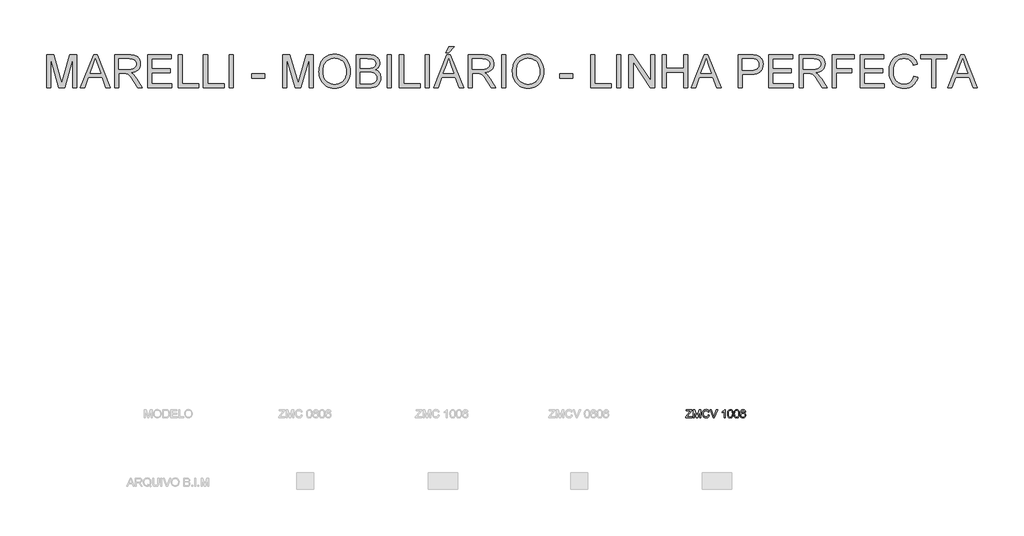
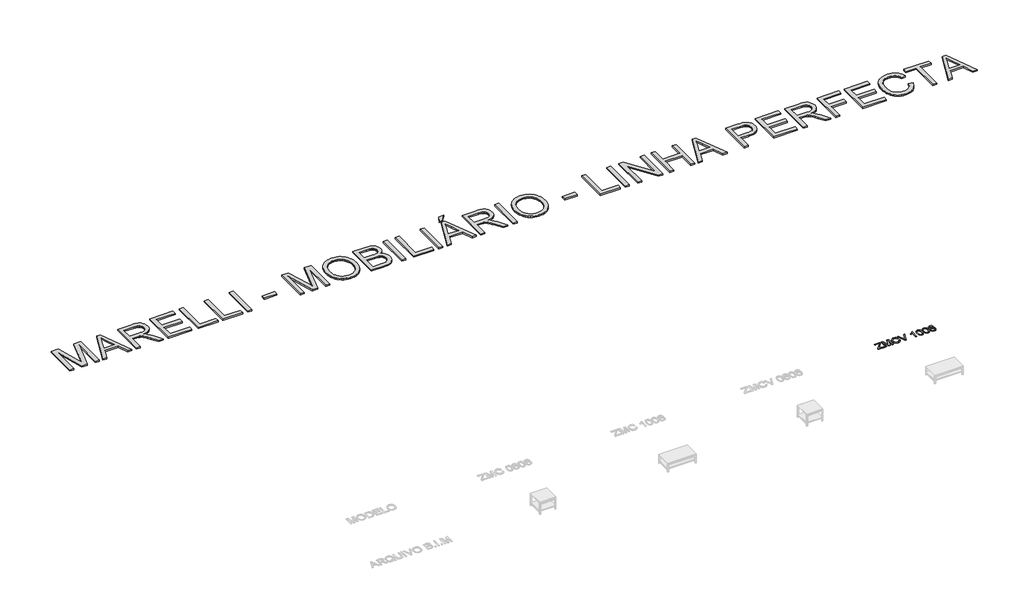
# One storey, part 5 of 5: 2 proxies.
"""IFC4 building model written with IfcOpenShell, lengths in millimetres."""

from ifc_helpers import new_model, si_unit, origin, origin_with_axes, place, context, project, spatial, polyline, outline, extrude, element, save

model = new_model("IFC4")

# Units and contexts
model_context = context("Model", 3, world=origin())
ifc_project = project(units=[si_unit("LENGTHUNIT", "METRE", prefix="MILLI")], contexts=[model_context])

# Site, building, storey
site = spatial("IfcSite", under=ifc_project)
building = spatial("IfcBuilding", under=site)
storey = spatial("IfcBuildingStorey", under=building, Name="Marelli - Linha PERFECTA - Planta Baixa", Elevation=0.0)

# Proxies
placement = place(None, origin())
element("IfcBuildingElementProxy", 1, Name="1200mm Arial", ObjectType="1200mm Arial", at=placement, inside=storey, context=model_context, shape_type="SweptSolid", body=[
    extrude(outline(polyline([(-13540.6713441, 28269.4336799), (-13540.6713441, 29474.9094017), (-13281.3881139, 29474.9094017), (-13034.7600243, 28625.2491457), (-12985.0223786, 28447.7828712), (-12931.1644545, 28639.9644255), (-12688.6566432, 29474.9094017), (-12429.373413, 29474.9094017), (-12429.373413, 28269.4336799), (-12580.0578783, 28269.4336799), (-12580.0578783, 29324.2249365), (-12882.8983367, 28269.4336799), (-13087.1464204, 28269.4336799), (-13389.9868788, 29324.2249365), (-13389.9868788, 28269.4336799), (-13540.6713441, 28269.4336799)])), origin_with_axes(), (0.0, 0.0, 1.0), 50.0),
    extrude(outline(polyline([(-12306.0593683, 28269.4336799), (-11824.8697186, 29474.9094017), (-11696.5524787, 29474.9094017), (-11215.362829, 28269.4336799), (-11374.5821565, 28269.4336799), (-11512.6114811, 28646.144843), (-12009.1050218, 28646.144843), (-12146.8400407, 28269.4336799), (-12306.0593683, 28269.4336799)]), holes=[polyline([(-11953.7755697, 28796.8293082), (-11567.6466275, 28796.8293082), (-11676.2453925, 29093.1950435), (-11760.7110986, 29324.2249365), (-11835.7590256, 29119.093936), (-11953.7755697, 28796.8293082)])]), origin_with_axes(), (0.0, 0.0, 1.0), 50.0),
    extrude(outline(polyline([(-11054.3776679, 28269.4336799), (-11054.3776679, 29474.9094017), (-10534.9282907, 29474.9094017), (-10460.3678073, 29472.8768537), (-10395.3170735, 29466.7792096), (-10339.7760893, 29456.6164695), (-10293.7448546, 29442.3886334), (-10254.5470281, 29423.0012522), (-10219.506268, 29397.3598771), (-10188.6225745, 29365.4645082), (-10161.8959476, 29327.3151453), (-10140.3288656, 29284.9627306), (-10124.9238071, 29240.4582062), (-10115.6807719, 29193.8015722), (-10112.5997602, 29144.9928285), (-10117.7041229, 29083.0782887), (-10133.017211, 29026.2405204), (-10158.5390244, 28974.4795237), (-10194.2695631, 28927.7952985), (-10216.0780677, 28906.7294558), (-10240.6686798, 28887.6777669), (-10298.1962268, 28855.616851), (-10366.8522041, 28831.6125509), (-10446.6366118, 28815.6648664), (-10396.9725425, 28783.2176744), (-10360.9936834, 28751.2119408), (-10299.2630846, 28678.0034238), (-10238.856861, 28596.1128916), (-10037.8461388, 28269.4336799), (-10212.9579685, 28269.4336799), (-10369.8228512, 28519.2991311), (-10432.5835196, 28614.6541442), (-10483.1305058, 28684.6988761), (-10525.2529942, 28732.9282057), (-10562.7401695, 28762.8370119), (-10598.2407821, 28780.384983), (-10634.4035822, 28791.5318075), (-10669.6466773, 28795.504933), (-10721.8123442, 28796.8293082), (-10903.6932026, 28796.8293082), (-10903.6932026, 28269.4336799), (-11054.3776679, 28269.4336799)]), holes=[polyline([(-10903.6932026, 28947.5137734), (-10566.4189895, 28947.5137734), (-10469.5556601, 28952.8480624), (-10429.2633846, 28959.5159235), (-10394.3973685, 28968.8509292), (-10364.1758626, 28981.1197937), (-10337.8171177, 28996.5892316), (-10315.3211337, 29015.2592429), (-10296.6879106, 29037.1298275), (-10282.0737983, 29061.1249306), (-10271.6351467, 29086.1684974), (-10265.3719558, 29112.2605279), (-10263.2842254, 29139.4010221), (-10267.266548, 29177.9366611), (-10279.2135158, 29212.9038448), (-10299.1251288, 29244.3025731), (-10327.001387, 29272.132846), (-10363.4860839, 29294.9231356), (-10409.2230129, 29311.2019139), (-10464.2121742, 29320.9691808), (-10528.4535676, 29324.2249365), (-10903.6932026, 29324.2249365), (-10903.6932026, 28947.5137734)])]), origin_with_axes(), (0.0, 0.0, 1.0), 50.0),
    extrude(outline(polyline([(-9848.9019461, 28269.4336799), (-9848.9019461, 29474.9094017), (-8982.466271, 29474.9094017), (-8982.466271, 29324.2249365), (-9698.2174809, 29324.2249365), (-9698.2174809, 28966.3493316), (-9020.1373873, 28966.3493316), (-9020.1373873, 28815.6648664), (-9698.2174809, 28815.6648664), (-9698.2174809, 28420.1181452), (-8963.6307129, 28420.1181452), (-8963.6307129, 28269.4336799), (-9848.9019461, 28269.4336799)])), origin_with_axes(), (0.0, 0.0, 1.0), 50.0),
    extrude(outline(polyline([(-8737.604015, 28269.4336799), (-8737.604015, 29474.9094017), (-8586.9195498, 29474.9094017), (-8586.9195498, 28420.1181452), (-7984.1816889, 28420.1181452), (-7984.1816889, 28269.4336799), (-8737.604015, 28269.4336799)])), origin_with_axes(), (0.0, 0.0, 1.0), 50.0),
    extrude(outline(polyline([(-7814.6616655, 28269.4336799), (-7814.6616655, 29474.9094017), (-7663.9772003, 29474.9094017), (-7663.9772003, 28420.1181452), (-7061.2393394, 28420.1181452), (-7061.2393394, 28269.4336799), (-7814.6616655, 28269.4336799)])), origin_with_axes(), (0.0, 0.0, 1.0), 50.0),
    extrude(outline(polyline([(-6872.8837579, 28269.4336799), (-6872.8837579, 29474.9094017), (-6722.1992927, 29474.9094017), (-6722.1992927, 28269.4336799), (-6872.8837579, 28269.4336799)])), origin_with_axes(), (0.0, 0.0, 1.0), 50.0),
    extrude(outline(polyline([(-6044.1191992, 28627.3092848), (-6044.1191992, 28777.9937501), (-5573.2302453, 28777.9937501), (-5573.2302453, 28627.3092848), (-6044.1191992, 28627.3092848)])), origin_with_axes(), (0.0, 0.0, 1.0), 50.0),
    extrude(outline(polyline([(-4913.98571, 28269.4336799), (-4913.98571, 29474.9094017), (-4654.7024798, 29474.9094017), (-4408.0743902, 28625.2491457), (-4358.3367445, 28447.7828712), (-4304.4788204, 28639.9644255), (-4061.9710091, 29474.9094017), (-3802.6877789, 29474.9094017), (-3802.6877789, 28269.4336799), (-3953.3722442, 28269.4336799), (-3953.3722442, 29324.2249365), (-4256.2127026, 28269.4336799), (-4460.4607863, 28269.4336799), (-4763.3012448, 29324.2249365), (-4763.3012448, 28269.4336799), (-4913.98571, 28269.4336799)])), origin_with_axes(), (0.0, 0.0, 1.0), 50.0),
    extrude(outline(polyline([(-3595.4966393, 28856.2790386), (-3592.9858446, 28929.0047106), (-3585.4534608, 28997.6744835), (-3572.8994877, 29062.2883574), (-3555.3239254, 29122.8463323), (-3532.7267738, 29179.3484083), (-3505.108033, 29231.7945852), (-3472.467703, 29280.1848632), (-3434.8057838, 29324.5192421), (-3393.1753375, 29364.1815197), (-3348.6294264, 29398.5554936), (-3301.1680505, 29427.6411639), (-3250.7912098, 29451.4385304), (-3197.4989043, 29469.9475933), (-3141.2911339, 29483.1683525), (-3082.1678988, 29491.100808), (-3020.1291988, 29493.7449599), (-2939.029613, 29488.7785529), (-2862.0135173, 29473.8793321), (-2789.0809117, 29449.0472975), (-2720.2317963, 29414.2824489), (-2657.3975516, 29370.6332502), (-2602.5095579, 29319.148165), (-2555.5678153, 29259.8271932), (-2516.5723238, 29192.670335), (-2485.9277536, 29119.2043006), (-2464.0387749, 29040.9558002), (-2450.9053877, 28957.9248339), (-2446.5275919, 28870.1114017), (-2451.1353139, 28781.1391411), (-2464.9584799, 28696.9861347), (-2487.9970898, 28617.6523825), (-2520.2511438, 28543.1378843), (-2560.9572865, 28475.410809), (-2609.352163, 28416.4393252), (-2665.4357732, 28366.2234329), (-2729.208117, 28324.763132), (-2798.1584, 28292.31594), (-2869.7758274, 28269.1393743), (-2944.0603993, 28255.2334349), (-3021.0121156, 28250.5981218), (-3103.5280471, 28255.7208786), (-3181.5558183, 28271.0891489), (-3255.0954291, 28296.7029328), (-3324.1468796, 28332.5622303), (-3386.907548, 28377.2782868), (-3441.5748125, 28429.4623478), (-3488.1486731, 28489.1144134), (-3526.6291298, 28556.2344834), (-3556.7586652, 28628.1278223), (-3578.2797619, 28702.0996945), (-3591.1924199, 28778.1500999), (-3595.4966393, 28856.2790386)]), holes=[polyline([(-3444.812174, 28854.8075107), (-3442.9290781, 28803.4557827), (-3437.2797902, 28754.9091549), (-3427.8643104, 28709.1676273), (-3414.6826386, 28666.2311999), (-3397.734775, 28626.0998728), (-3377.0207194, 28588.7736458), (-3352.5404719, 28554.2525191), (-3324.2940324, 28522.5364926), (-3293.2057046, 28494.1176085), (-3260.1997918, 28469.4879089), (-3225.2762942, 28448.6473939), (-3188.4352116, 28431.5960634), (-3149.6765441, 28418.3339175), (-3109.0002918, 28408.8609561), (-3066.4064545, 28403.1771793), (-3021.8950324, 28401.282587), (-2976.5696713, 28403.1955734), (-2933.2998509, 28408.9345325), (-2892.0855711, 28418.4994644), (-2852.926832, 28431.890369), (-2815.8236335, 28449.1072464), (-2780.7759757, 28470.1500965), (-2747.7838585, 28495.0189194), (-2716.847282, 28523.713715), (-2688.8077762, 28555.9263822), (-2664.5068711, 28591.3488198), (-2643.9445668, 28629.9810278), (-2627.1208634, 28671.8230063), (-2614.0357606, 28716.8747551), (-2604.6892587, 28765.1362743), (-2599.0813575, 28816.607564), (-2597.2120572, 28871.288624), (-2600.4126305, 28940.248104), (-2610.0143506, 29004.6826355), (-2626.0172174, 29064.5922184), (-2648.4212309, 29119.9768528), (-2676.9780708, 29170.1099717), (-2711.4394167, 29214.2650081), (-2751.8052686, 29252.4419622), (-2798.0756265, 29284.6408338), (-2848.8157507, 29310.1994354), (-2902.5909013, 29328.4555794), (-2959.4010785, 29339.4092659), (-3019.246282, 29343.0604947), (-3062.0447536, 29341.3015589), (-3103.325712, 29336.0247515), (-3143.0891572, 29327.2300726), (-3181.3350891, 29314.917522), (-3218.0635078, 29299.0870999), (-3253.2744132, 29279.7388062), (-3286.9678055, 29256.872641), (-3319.1436845, 29230.4886041), (-3348.5972367, 29199.993486), (-3374.1236487, 29164.7940768), (-3395.7229203, 29124.8903767), (-3413.3950516, 29080.2823855), (-3427.1400427, 29030.9701033), (-3436.9578934, 28976.9535301), (-3442.8486039, 28918.2326659), (-3444.812174, 28854.8075107)])]), origin_with_axes(), (0.0, 0.0, 1.0), 50.0),
    extrude(outline(polyline([(-2239.3364522, 28269.4336799), (-2239.3364522, 29474.9094017), (-1779.3368055, 29474.9094017), (-1712.6122086, 29472.6929127), (-1652.8221873, 29466.0434456), (-1599.9667417, 29454.9610005), (-1554.0458716, 29439.4455774), (-1513.8915519, 29419.3316293), (-1478.335757, 29394.4536094), (-1447.3784871, 29364.8115176), (-1421.0197422, 29330.405354), (-1399.967695, 29293.1756961), (-1384.9305184, 29255.0631214), (-1375.9082125, 29216.0676299), (-1372.9007772, 29176.1892216), (-1375.4299659, 29139.3550369), (-1383.0175321, 29103.606104), (-1395.6634757, 29068.942423), (-1413.3677967, 29035.3639939), (-1436.1856774, 29003.9192804), (-1464.1723002, 28975.6567461), (-1497.327665, 28950.5763911), (-1535.6517719, 28928.6782153), (-1490.1723602, 28909.2908341), (-1450.2663608, 28884.0909175), (-1415.9337736, 28853.0784653), (-1387.1745986, 28816.2534776), (-1364.4486884, 28774.7379944), (-1348.2158953, 28729.6540559), (-1338.4762195, 28681.001662), (-1335.2296609, 28628.7808128), (-1337.4461499, 28585.9869397), (-1344.095617, 28544.7197769), (-1355.1780621, 28504.9793244), (-1370.6934852, 28466.7655821), (-1389.4830581, 28431.4673047), (-1410.3879525, 28400.4732466), (-1433.4081684, 28373.7834079), (-1458.5437057, 28351.3977885), (-1486.3831757, 28332.3966834), (-1517.5151895, 28315.8603877), (-1551.9397472, 28301.7889014), (-1589.6568488, 28290.1822245), (-1631.2551054, 28281.1047362), (-1677.3231282, 28274.6208161), (-1782.8684726, 28269.4336799), (-2239.3364522, 28269.4336799)]), holes=[polyline([(-2088.651987, 28985.1848897), (-1813.4762546, 28985.1848897), (-1717.2383247, 28988.4222513), (-1652.7853991, 28998.134336), (-1622.6834549, 29007.9108), (-1596.5362421, 29020.4647731), (-1574.3437607, 29035.7962552), (-1556.1060108, 29053.9052464), (-1541.8781746, 29074.662988), (-1531.7154345, 29097.9407213), (-1525.6177904, 29123.7384462), (-1523.5852424, 29152.0561628), (-1525.4798347, 29179.1690658), (-1531.1636115, 29204.5897117), (-1540.6365729, 29228.3181004), (-1553.8987188, 29250.3542319), (-1570.6925319, 29269.8795688), (-1590.7604947, 29286.0755736), (-1614.1026073, 29298.9422464), (-1640.7188697, 29308.4795871), (-1674.0121903, 29315.3681775), (-1717.3854775, 29320.2885992), (-1834.371952, 29324.2249365), (-2088.651987, 29324.2249365), (-2088.651987, 28985.1848897)]), polyline([(-2088.651987, 28420.1181452), (-1779.6311111, 28420.1181452), (-1711.940824, 28421.5896731), (-1667.7949845, 28426.0042571), (-1615.886835, 28439.0640679), (-1573.1757354, 28458.819331), (-1538.447675, 28487.1094565), (-1510.4886434, 28525.7738542), (-1499.7372921, 28548.5641438), (-1492.0577554, 28573.0834788), (-1487.4500334, 28599.3318591), (-1485.9141261, 28627.3092848), (-1487.7167479, 28659.9036296), (-1493.1246132, 28690.2906824), (-1502.1377221, 28718.4704432), (-1514.7560745, 28744.4429121), (-1531.4119319, 28767.463128), (-1552.5375554, 28786.7861297), (-1578.1329453, 28802.4119175), (-1608.1981013, 28814.3404912), (-1644.0573988, 28823.160462), (-1687.0352129, 28829.4604412), (-1794.3463909, 28834.5004245), (-2088.651987, 28834.5004245), (-2088.651987, 28420.1181452)])]), origin_with_axes(), (0.0, 0.0, 1.0), 50.0),
    extrude(outline(polyline([(-1109.2029631, 28269.4336799), (-1109.2029631, 29474.9094017), (-958.5184978, 29474.9094017), (-958.5184978, 28269.4336799), (-1109.2029631, 28269.4336799)])), origin_with_axes(), (0.0, 0.0, 1.0), 50.0),
    extrude(outline(polyline([(-657.1495674, 28269.4336799), (-657.1495674, 29474.9094017), (-506.4651022, 29474.9094017), (-506.4651022, 28420.1181452), (96.2727587, 28420.1181452), (96.2727587, 28269.4336799), (-657.1495674, 28269.4336799)])), origin_with_axes(), (0.0, 0.0, 1.0), 50.0),
    extrude(outline(polyline([(284.6283403, 28269.4336799), (284.6283403, 29474.9094017), (435.3128055, 29474.9094017), (435.3128055, 28269.4336799), (284.6283403, 28269.4336799)])), origin_with_axes(), (0.0, 0.0, 1.0), 50.0),
    extrude(outline(polyline([(596.2979666, 28269.4336799), (1077.4876163, 29474.9094017), (1205.8048562, 29474.9094017), (1686.9945059, 28269.4336799), (1527.7751784, 28269.4336799), (1389.7458538, 28646.144843), (893.2523131, 28646.144843), (755.5172941, 28269.4336799), (596.2979666, 28269.4336799)]), holes=[polyline([(948.5817652, 28796.8293082), (1334.7107073, 28796.8293082), (1226.1119423, 29093.1950435), (1141.6462362, 29324.2249365), (1066.5983092, 29119.093936), (948.5817652, 28796.8293082)])]), origin_with_axes(), (0.0, 0.0, 1.0), 50.0),
    extrude(outline(polyline([(1038.0506664, 29550.2516343), (1151.0640153, 29776.2783322), (1339.4195968, 29776.2783322), (1151.0640153, 29550.2516343), (1038.0506664, 29550.2516343)])), origin_with_axes(), (0.0, 0.0, 1.0), 50.0),
    extrude(outline(polyline([(1847.979667, 28269.4336799), (1847.979667, 29474.9094017), (2367.4290442, 29474.9094017), (2441.9895275, 29472.8768537), (2507.0402613, 29466.7792096), (2562.5812456, 29456.6164695), (2608.6124802, 29442.3886334), (2647.8103068, 29423.0012522), (2682.8510668, 29397.3598771), (2713.7347603, 29365.4645082), (2740.4613873, 29327.3151453), (2762.0284692, 29284.9627306), (2777.4335278, 29240.4582062), (2786.6765629, 29193.8015722), (2789.7575746, 29144.9928285), (2784.6532119, 29083.0782887), (2769.3401239, 29026.2405204), (2743.8183105, 28974.4795237), (2708.0877717, 28927.7952985), (2686.2792672, 28906.7294558), (2661.6886551, 28887.6777669), (2604.1611081, 28855.616851), (2535.5051307, 28831.6125509), (2455.720723, 28815.6648664), (2505.3847924, 28783.2176744), (2541.3636515, 28751.2119408), (2603.0942503, 28678.0034238), (2663.5004739, 28596.1128916), (2864.511196, 28269.4336799), (2689.3993663, 28269.4336799), (2532.5344836, 28519.2991311), (2469.7738152, 28614.6541442), (2419.2268291, 28684.6988761), (2377.1043406, 28732.9282057), (2339.6171653, 28762.8370119), (2304.1165528, 28780.384983), (2267.9537527, 28791.5318075), (2232.7106575, 28795.504933), (2180.5449906, 28796.8293082), (1998.6641322, 28796.8293082), (1998.6641322, 28269.4336799), (1847.979667, 28269.4336799)]), holes=[polyline([(1998.6641322, 28947.5137734), (2335.9383454, 28947.5137734), (2432.8016747, 28952.8480624), (2473.0939502, 28959.5159235), (2507.9599663, 28968.8509292), (2538.1814722, 28981.1197937), (2564.5402172, 28996.5892316), (2587.0362012, 29015.2592429), (2605.6694242, 29037.1298275), (2620.2835365, 29061.1249306), (2630.7221881, 29086.1684974), (2636.9853791, 29112.2605279), (2639.0731094, 29139.4010221), (2635.0907868, 29177.9366611), (2623.143819, 29212.9038448), (2603.232206, 29244.3025731), (2575.3559478, 29272.132846), (2538.871251, 29294.9231356), (2493.1343219, 29311.2019139), (2438.1451607, 29320.9691808), (2373.9037673, 29324.2249365), (1998.6641322, 29324.2249365), (1998.6641322, 28947.5137734)])]), origin_with_axes(), (0.0, 0.0, 1.0), 50.0),
    extrude(outline(polyline([(3072.2909469, 28269.4336799), (3072.2909469, 29474.9094017), (3222.9754121, 29474.9094017), (3222.9754121, 28269.4336799), (3072.2909469, 28269.4336799)])), origin_with_axes(), (0.0, 0.0, 1.0), 50.0),
    extrude(outline(polyline([(3467.8376681, 28856.2790386), (3470.3484627, 28929.0047106), (3477.8808466, 28997.6744835), (3490.4348197, 29062.2883574), (3508.010382, 29122.8463323), (3530.6075336, 29179.3484083), (3558.2262743, 29231.7945852), (3590.8666044, 29280.1848632), (3628.5285236, 29324.5192421), (3670.1589699, 29364.1815197), (3714.704881, 29398.5554936), (3762.1662569, 29427.6411639), (3812.5430976, 29451.4385304), (3865.8354031, 29469.9475933), (3922.0431735, 29483.1683525), (3981.1664086, 29491.100808), (4043.2051086, 29493.7449599), (4124.3046944, 29488.7785529), (4201.3207901, 29473.8793321), (4274.2533957, 29449.0472975), (4343.1025111, 29414.2824489), (4405.9367558, 29370.6332502), (4460.8247495, 29319.148165), (4507.7664921, 29259.8271932), (4546.7619836, 29192.670335), (4577.4065538, 29119.2043006), (4599.2955325, 29040.9558002), (4612.4289197, 28957.9248339), (4616.8067155, 28870.1114017), (4612.1989935, 28781.1391411), (4598.3758275, 28696.9861347), (4575.3372176, 28617.6523825), (4543.0831636, 28543.1378843), (4502.3770209, 28475.410809), (4453.9821444, 28416.4393252), (4397.8985342, 28366.2234329), (4334.1261904, 28324.763132), (4265.1759074, 28292.31594), (4193.55848, 28269.1393743), (4119.2739081, 28255.2334349), (4042.3221918, 28250.5981218), (3959.8062603, 28255.7208786), (3881.7784891, 28271.0891489), (3808.2388783, 28296.7029328), (3739.1874278, 28332.5622303), (3676.4267594, 28377.2782868), (3621.7594949, 28429.4623478), (3575.1856343, 28489.1144134), (3536.7051776, 28556.2344834), (3506.5756422, 28628.1278223), (3485.0545455, 28702.0996945), (3472.1418875, 28778.1500999), (3467.8376681, 28856.2790386)]), holes=[polyline([(3618.5221334, 28854.8075107), (3620.4052293, 28803.4557827), (3626.0545172, 28754.9091549), (3635.469997, 28709.1676273), (3648.6516688, 28666.2311999), (3665.5995324, 28626.0998728), (3686.313588, 28588.7736458), (3710.7938355, 28554.2525191), (3739.040275, 28522.5364926), (3770.1286028, 28494.1176085), (3803.1345156, 28469.4879089), (3838.0580132, 28448.6473939), (3874.8990958, 28431.5960634), (3913.6577632, 28418.3339175), (3954.3340156, 28408.8609561), (3996.9278529, 28403.1771793), (4041.439275, 28401.282587), (4086.7646361, 28403.1955734), (4130.0344565, 28408.9345325), (4171.2487363, 28418.4994644), (4210.4074754, 28431.890369), (4247.5106739, 28449.1072464), (4282.5583317, 28470.1500965), (4315.5504489, 28495.0189194), (4346.4870254, 28523.713715), (4374.5265312, 28555.9263822), (4398.8274363, 28591.3488198), (4419.3897405, 28629.9810278), (4436.213444, 28671.8230063), (4449.2985468, 28716.8747551), (4458.6450487, 28765.1362743), (4464.2529499, 28816.607564), (4466.1222502, 28871.288624), (4462.9216769, 28940.248104), (4453.3199568, 29004.6826355), (4437.31709, 29064.5922184), (4414.9130765, 29119.9768528), (4386.3562366, 29170.1099717), (4351.8948907, 29214.2650081), (4311.5290388, 29252.4419622), (4265.2586809, 29284.6408338), (4214.5185567, 29310.1994354), (4160.743406, 29328.4555794), (4103.9332289, 29339.4092659), (4044.0880254, 29343.0604947), (4001.2895538, 29341.3015589), (3960.0085954, 29336.0247515), (3920.2451502, 29327.2300726), (3881.9992183, 29314.917522), (3845.2707996, 29299.0870999), (3810.0598941, 29279.7388062), (3776.3665019, 29256.872641), (3744.1906229, 29230.4886041), (3714.7370707, 29199.993486), (3689.2106587, 29164.7940768), (3667.6113871, 29124.8903767), (3649.9392557, 29080.2823855), (3636.1942647, 29030.9701033), (3626.376414, 28976.9535301), (3620.4857035, 28918.2326659), (3618.5221334, 28854.8075107)])]), origin_with_axes(), (0.0, 0.0, 1.0), 50.0),
    extrude(outline(polyline([(5200.7090182, 28627.3092848), (5200.7090182, 28777.9937501), (5671.597972, 28777.9937501), (5671.597972, 28627.3092848), (5200.7090182, 28627.3092848)])), origin_with_axes(), (0.0, 0.0, 1.0), 50.0),
    extrude(outline(polyline([(6330.8425074, 28269.4336799), (6330.8425074, 29474.9094017), (6481.5269726, 29474.9094017), (6481.5269726, 28420.1181452), (7084.2648335, 28420.1181452), (7084.2648335, 28269.4336799), (6330.8425074, 28269.4336799)])), origin_with_axes(), (0.0, 0.0, 1.0), 50.0),
    extrude(outline(polyline([(7272.620415, 28269.4336799), (7272.620415, 29474.9094017), (7423.3048803, 29474.9094017), (7423.3048803, 28269.4336799), (7272.620415, 28269.4336799)])), origin_with_axes(), (0.0, 0.0, 1.0), 50.0),
    extrude(outline(polyline([(7724.6738107, 28269.4336799), (7724.6738107, 29474.9094017), (7885.9532774, 29474.9094017), (8515.7672532, 28519.8877422), (8515.7672532, 29474.9094017), (8666.4517184, 29474.9094017), (8666.4517184, 28269.4336799), (8505.1722517, 28269.4336799), (7875.3582759, 29224.749645), (7875.3582759, 28269.4336799), (7724.6738107, 28269.4336799)])), origin_with_axes(), (0.0, 0.0, 1.0), 50.0),
    extrude(outline(polyline([(8930.1495325, 28269.4336799), (8930.1495325, 29474.9094017), (9080.8339977, 29474.9094017), (9080.8339977, 28985.1848897), (9721.2429749, 28985.1848897), (9721.2429749, 29474.9094017), (9871.9274402, 29474.9094017), (9871.9274402, 28269.4336799), (9721.2429749, 28269.4336799), (9721.2429749, 28834.5004245), (9080.8339977, 28834.5004245), (9080.8339977, 28269.4336799), (8930.1495325, 28269.4336799)])), origin_with_axes(), (0.0, 0.0, 1.0), 50.0),
    extrude(outline(polyline([(9995.241485, 28269.4336799), (10476.4311346, 29474.9094017), (10604.7483746, 29474.9094017), (11085.9380243, 28269.4336799), (10926.7186967, 28269.4336799), (10788.6893722, 28646.144843), (10292.1958315, 28646.144843), (10154.4608125, 28269.4336799), (9995.241485, 28269.4336799)]), holes=[polyline([(10347.5252835, 28796.8293082), (10733.6542257, 28796.8293082), (10625.0554607, 29093.1950435), (10540.5897546, 29324.2249365), (10465.5418276, 29119.093936), (10347.5252835, 28796.8293082)])]), origin_with_axes(), (0.0, 0.0, 1.0), 50.0),
    extrude(outline(polyline([(11717.8121392, 28269.4336799), (11717.8121392, 29474.9094017), (12164.5680341, 29474.9094017), (12268.6050623, 29472.0399222), (12344.683059, 29463.4314835), (12386.6124094, 29454.3907834), (12424.9916985, 29441.9839632), (12459.8209264, 29426.2110226), (12491.100093, 29407.0719618), (12519.1602922, 29384.1713076), (12544.3326177, 29357.1135869), (12566.6170696, 29325.8987996), (12586.0136478, 29290.5269457), (12601.722209, 29252.1660507), (12612.9426098, 29211.9841398), (12619.6748503, 29169.981213), (12621.9189305, 29126.1572703), (12615.8580746, 29052.157807), (12608.2820048, 29017.3791629), (12597.675507, 28984.0812438), (12584.0385813, 28952.2640497), (12567.3712277, 28921.9275807), (12547.6734461, 28893.0718367), (12524.9452366, 28865.6968177), (12498.2622956, 28840.7268273), (12466.7003197, 28819.0861689), (12430.2593088, 28800.7748426), (12388.939263, 28785.7928484), (12342.7401822, 28774.1401862), (12291.6620664, 28765.816856), (12235.7049157, 28760.8228579), (12174.86873, 28759.1581919), (11868.4966044, 28759.1581919), (11868.4966044, 28269.4336799), (11717.8121392, 28269.4336799)]), holes=[polyline([(11868.4966044, 28909.8426571), (12183.6978979, 28909.8426571), (12256.1706509, 28913.3007479), (12317.3126385, 28923.6750202), (12367.1238607, 28940.9654739), (12405.6043174, 28965.1721092), (12434.3175071, 28995.6511325), (12454.8269283, 29031.7587503), (12467.132581, 29073.4949627), (12471.2344653, 29120.8597696), (12468.8156412, 29156.0292883), (12461.5591688, 29188.5500567), (12449.4650482, 29218.4220747), (12432.5332794, 29245.6453423), (12411.6651732, 29269.3369428), (12387.7620406, 29288.6139594), (12360.8238815, 29303.476392), (12330.8506959, 29313.9242406), (12272.7253407, 29321.6497625), (12180.1662307, 29324.2249365), (11868.4966044, 29324.2249365), (11868.4966044, 28909.8426571)])]), origin_with_axes(), (0.0, 0.0, 1.0), 50.0),
    extrude(outline(polyline([(12829.1100702, 28269.4336799), (12829.1100702, 29474.9094017), (13695.5457452, 29474.9094017), (13695.5457452, 29324.2249365), (12979.7945354, 29324.2249365), (12979.7945354, 28966.3493316), (13657.8746289, 28966.3493316), (13657.8746289, 28815.6648664), (12979.7945354, 28815.6648664), (12979.7945354, 28420.1181452), (13714.3813034, 28420.1181452), (13714.3813034, 28269.4336799), (12829.1100702, 28269.4336799)])), origin_with_axes(), (0.0, 0.0, 1.0), 50.0),
    extrude(outline(polyline([(13940.4080012, 28269.4336799), (13940.4080012, 29474.9094017), (14459.8573784, 29474.9094017), (14534.4178618, 29472.8768537), (14599.4685956, 29466.7792096), (14655.0095798, 29456.6164695), (14701.0408145, 29442.3886334), (14740.238641, 29423.0012522), (14775.2794011, 29397.3598771), (14806.1630946, 29365.4645082), (14832.8897215, 29327.3151453), (14854.4568035, 29284.9627306), (14869.861862, 29240.4582062), (14879.1048972, 29193.8015722), (14882.1859089, 29144.9928285), (14877.0815462, 29083.0782887), (14861.7684581, 29026.2405204), (14836.2466447, 28974.4795237), (14800.516106, 28927.7952985), (14778.7076014, 28906.7294558), (14754.1169893, 28887.6777669), (14696.5894423, 28855.616851), (14627.933465, 28831.6125509), (14548.1490573, 28815.6648664), (14597.8131266, 28783.2176744), (14633.7919857, 28751.2119408), (14695.5225845, 28678.0034238), (14755.9288081, 28596.1128916), (14956.9395303, 28269.4336799), (14781.8277006, 28269.4336799), (14624.9628179, 28519.2991311), (14562.2021495, 28614.6541442), (14511.6551633, 28684.6988761), (14469.5326749, 28732.9282057), (14432.0454996, 28762.8370119), (14396.544887, 28780.384983), (14360.3820869, 28791.5318075), (14325.1389918, 28795.504933), (14272.9733249, 28796.8293082), (14091.0924665, 28796.8293082), (14091.0924665, 28269.4336799), (13940.4080012, 28269.4336799)]), holes=[polyline([(14091.0924665, 28947.5137734), (14428.3666796, 28947.5137734), (14525.230009, 28952.8480624), (14565.5222845, 28959.5159235), (14600.3883006, 28968.8509292), (14630.6098065, 28981.1197937), (14656.9685514, 28996.5892316), (14679.4645354, 29015.2592429), (14698.0977585, 29037.1298275), (14712.7118708, 29061.1249306), (14723.1505224, 29086.1684974), (14729.4137133, 29112.2605279), (14731.5014437, 29139.4010221), (14727.5191211, 29177.9366611), (14715.5721533, 29212.9038448), (14695.6605403, 29244.3025731), (14667.7842821, 29272.132846), (14631.2995852, 29294.9231356), (14585.5626562, 29311.2019139), (14530.5734949, 29320.9691808), (14466.3321015, 29324.2249365), (14091.0924665, 29324.2249365), (14091.0924665, 28947.5137734)])]), origin_with_axes(), (0.0, 0.0, 1.0), 50.0),
    extrude(outline(polyline([(15145.883723, 28269.4336799), (15145.883723, 29474.9094017), (15955.8127236, 29474.9094017), (15955.8127236, 29324.2249365), (15296.5681882, 29324.2249365), (15296.5681882, 28966.3493316), (15861.6349328, 28966.3493316), (15861.6349328, 28815.6648664), (15296.5681882, 28815.6648664), (15296.5681882, 28269.4336799), (15145.883723, 28269.4336799)])), origin_with_axes(), (0.0, 0.0, 1.0), 50.0),
    extrude(outline(polyline([(16163.0038633, 28269.4336799), (16163.0038633, 29474.9094017), (17029.4395383, 29474.9094017), (17029.4395383, 29324.2249365), (16313.6883285, 29324.2249365), (16313.6883285, 28966.3493316), (16991.768422, 28966.3493316), (16991.768422, 28815.6648664), (16313.6883285, 28815.6648664), (16313.6883285, 28420.1181452), (17048.2750965, 28420.1181452), (17048.2750965, 28269.4336799), (16163.0038633, 28269.4336799)])), origin_with_axes(), (0.0, 0.0, 1.0), 50.0),
    extrude(outline(polyline([(18121.9019112, 28697.9426279), (18272.5863764, 28659.0942892), (18258.9149618, 28610.7614928), (18242.7695407, 28565.385548), (18224.1501132, 28522.9664547), (18203.0566793, 28483.5042129), (18179.489239, 28446.9988227), (18153.4477923, 28413.450284), (18124.9323391, 28382.8585968), (18093.9428796, 28355.2237612), (18060.8151059, 28330.702127), (18025.8847105, 28309.450044), (17989.1516932, 28291.4675122), (17950.6160543, 28276.7545316), (17910.2777935, 28265.3111023), (17868.1369109, 28257.1372242), (17824.1934066, 28252.2328974), (17778.4472805, 28250.5981218), (17686.5595552, 28255.5461346), (17603.6665446, 28270.3901731), (17529.7682488, 28295.1302373), (17496.192119, 28311.211279), (17464.8646678, 28329.7663271), (17408.0636878, 28373.7834079), (17358.4731948, 28426.6664447), (17316.093189, 28488.4154376), (17280.9236702, 28559.0303865), (17253.3049294, 28635.457871), (17233.5772575, 28714.6444705), (17221.7406543, 28796.5901849), (17217.7951199, 28881.2950143), (17222.2556891, 28972.1802612), (17235.6373966, 29057.0690316), (17257.9402426, 29135.9613255), (17289.1642269, 29208.8571428), (17328.6103739, 29274.5516701), (17375.5797076, 29331.8400938), (17430.0722281, 29380.7224139), (17492.0879355, 29421.1986304), (17559.5207052, 29452.9376496), (17630.2644129, 29475.6083775), (17704.3190585, 29489.2108143), (17781.6846421, 29493.7449599), (17867.8701965, 29487.8772421), (17908.2797344, 29480.5425948), (17946.9004461, 29470.2740886), (17983.7323316, 29457.0717235), (18018.7753909, 29440.9354995), (18052.029624, 29421.8654165), (18083.4950309, 29399.8614747), (18112.9048972, 29375.1949869), (18139.9925083, 29348.1372662), (18164.7578644, 29318.6883125), (18187.2009654, 29286.8481258), (18207.3218112, 29252.6167061), (18225.120402, 29215.9940535), (18253.7508183, 29135.5750494), (18103.0663531, 29099.6697666), (18079.3379644, 29158.926359), (18050.8271097, 29209.5561186), (18017.5337892, 29251.5590454), (17979.4580027, 29284.9351394), (17936.379021, 29310.3649823), (17888.0761151, 29328.5291558), (17834.5492848, 29339.42766), (17775.7985301, 29343.0604947), (17708.2002135, 29339.0321868), (17646.3776442, 29326.9472633), (17590.3308223, 29306.805724), (17540.0597476, 29278.6075691), (17496.1990168, 29243.6219914), (17459.3832261, 29203.1181837), (17429.6123756, 29157.0961461), (17406.8864654, 29105.5558786), (17390.0834553, 29050.8334318), (17378.0813052, 28995.2648564), (17370.8800151, 28938.8501525), (17368.4795851, 28881.5893199), (17371.3214735, 28809.6316016), (17379.8471387, 28742.3827729), (17394.0565808, 28679.8428338), (17413.9497997, 28622.0117841), (17439.8486921, 28570.0392552), (17472.0751549, 28525.0748784), (17510.629188, 28487.1186535), (17555.5107914, 28456.1705807), (17604.5402643, 28432.1570834), (17655.5379059, 28415.0045854), (17708.5037162, 28404.7130866), (17763.4376951, 28401.282587), (17828.9482814, 28405.9546883), (17889.2165493, 28419.9709924), (17944.2424987, 28443.3314991), (17994.0261297, 28476.0362084), (18037.3902199, 28517.9379677), (18073.1575468, 28568.889624), (18101.3281106, 28628.8911774), (18121.9019112, 28697.9426279)])), origin_with_axes(), (0.0, 0.0, 1.0), 50.0),
    extrude(outline(polyline([(18781.1464466, 28269.4336799), (18781.1464466, 29324.2249365), (18385.5997253, 29324.2249365), (18385.5997253, 29474.9094017), (19327.377633, 29474.9094017), (19327.377633, 29324.2249365), (18931.8309118, 29324.2249365), (18931.8309118, 28269.4336799), (18781.1464466, 28269.4336799)])), origin_with_axes(), (0.0, 0.0, 1.0), 50.0),
    extrude(outline(polyline([(19356.513887, 28269.4336799), (19837.7035367, 29474.9094017), (19966.0207766, 29474.9094017), (20447.2104263, 28269.4336799), (20287.9910988, 28269.4336799), (20149.9617742, 28646.144843), (19653.4682335, 28646.144843), (19515.7332145, 28269.4336799), (19356.513887, 28269.4336799)]), holes=[polyline([(19708.7976856, 28796.8293082), (20094.9266277, 28796.8293082), (19986.3278628, 29093.1950435), (19901.8621567, 29324.2249365), (19826.8142297, 29119.093936), (19708.7976856, 28796.8293082)])]), origin_with_axes(), (0.0, 0.0, 1.0), 50.0),
])
element("IfcBuildingElementProxy", 2, Name="300mm Arial", ObjectType="300mm Arial", at=placement, inside=storey, context=model_context, shape_type="SweptSolid", body=[
    extrude(outline(polyline([(9790.6152836, 16219.4336799), (9790.6152836, 16258.5027478), (9944.7578395, 16447.2262113), (9974.0412464, 16483.1314941), (9809.4508417, 16483.1314941), (9809.4508417, 16520.8026104), (10021.3508709, 16520.8026104), (10021.3508709, 16483.1314941), (9852.640188, 16276.602542), (9836.7476858, 16257.1047962), (10026.0597605, 16257.1047962), (10026.0597605, 16219.4336799), (9790.6152836, 16219.4336799)])), origin_with_axes(), (0.0, 0.0, 1.0), 10.0),
    extrude(outline(polyline([(10068.4397663, 16219.4336799), (10068.4397663, 16520.8026104), (10133.2605739, 16520.8026104), (10194.9175963, 16308.3875464), (10207.3520077, 16264.0209777), (10220.8164887, 16312.0663663), (10281.4434415, 16520.8026104), (10346.2642491, 16520.8026104), (10346.2642491, 16219.4336799), (10308.5931328, 16219.4336799), (10308.5931328, 16483.1314941), (10232.8830182, 16219.4336799), (10181.8209972, 16219.4336799), (10106.1108826, 16483.1314941), (10106.1108826, 16219.4336799), (10068.4397663, 16219.4336799)])), origin_with_axes(), (0.0, 0.0, 1.0), 10.0),
    extrude(outline(polyline([(10624.0887318, 16326.5609169), (10661.7598481, 16316.8488323), (10654.3056392, 16293.4216469), (10644.3774239, 16272.9513132), (10631.9752021, 16255.4378309), (10617.0989739, 16240.8812003), (10600.0844317, 16229.4377709), (10581.2672676, 16221.2638929), (10560.6474818, 16216.359566), (10538.2250742, 16214.7247904), (10494.5298902, 16219.6728032), (10459.829421, 16234.5168417), (10433.2315527, 16258.7418711), (10413.8441716, 16291.8328566), (10402.0075684, 16330.7363776), (10398.062034, 16372.3990135), (10402.5226032, 16416.3425179), (10415.9043108, 16454.2895457), (10437.5081809, 16485.0352834), (10466.6352379, 16507.3749176), (10501.1793573, 16520.9773543), (10539.0344146, 16525.5114999), (10580.3383656, 16519.6437821), (10598.3071018, 16512.3091348), (10614.4870118, 16502.0406286), (10628.6113811, 16489.1095765), (10640.4134954, 16473.7872914), (10657.0509586, 16435.9690223), (10619.3798423, 16426.9927016), (10606.3200315, 16454.4642896), (10588.4777547, 16473.3090448), (10565.6322828, 16484.2075489), (10537.5628866, 16487.8403836), (10505.2076651, 16483.8120758), (10478.6281909, 16471.7271522), (10458.4590606, 16452.8548059), (10445.3348704, 16428.4642296), (10438.1335803, 16400.8914741), (10435.7331503, 16372.4725899), (10438.5750387, 16337.6709532), (10447.100704, 16307.578206), (10461.6320428, 16283.3439795), (10482.4909519, 16266.1179051), (10507.4977305, 16255.8264063), (10534.4726778, 16252.3959067), (10565.9173914, 16257.068008), (10592.1197865, 16271.0843121), (10611.9026407, 16294.297666), (10624.0887318, 16326.5609169)])), origin_with_axes(), (0.0, 0.0, 1.0), 10.0),
    extrude(outline(polyline([(10802.5850759, 16219.4336799), (10682.6555455, 16520.8026104), (10722.9754121, 16520.8026104), (10803.2472635, 16303.6786568), (10819.5076477, 16254.7503515), (10835.5473027, 16303.6786568), (10916.0398832, 16520.8026104), (10956.3597499, 16520.8026104), (10841.506991, 16219.4336799), (10802.5850759, 16219.4336799)])), origin_with_axes(), (0.0, 0.0, 1.0), 10.0),
    extrude(outline(polyline([(11236.2443718, 16219.4336799), (11198.5732555, 16219.4336799), (11198.5732555, 16454.2895457), (11162.888702, 16428.8688998), (11123.2310229, 16409.8494006), (11123.2310229, 16445.4603778), (11152.8179324, 16461.5552151), (11178.4501104, 16480.7034729), (11198.656029, 16501.0657413), (11211.9641601, 16520.8026104), (11236.2443718, 16520.8026104), (11236.2443718, 16219.4336799)])), origin_with_axes(), (0.0, 0.0, 1.0), 10.0),
    extrude(outline(polyline([(11325.713273, 16367.690124), (11328.4815851, 16415.9286506), (11336.7865211, 16454.3999103), (11350.5453077, 16483.6925141), (11369.6751715, 16504.3950734), (11394.3140681, 16516.7007261), (11424.5999533, 16520.8026104), (11447.8133072, 16518.3745892), (11468.59864, 16511.0905257), (11485.9810642, 16499.2355284), (11498.9856928, 16483.0947059), (11508.808142, 16462.8060138), (11516.6440285, 16438.5074081), (11521.7759824, 16407.6513057), (11523.4866336, 16367.690124), (11520.7459128, 16319.7275089), (11512.5237502, 16281.3482197), (11498.847737, 16252.0280247), (11479.7454644, 16231.242692), (11455.0513855, 16218.8542658), (11424.5999533, 16214.7247904), (11403.8514088, 16216.5182151), (11385.4573091, 16221.8984893), (11369.4176541, 16230.8656129), (11355.7324438, 16243.419586), (11342.5990566, 16266.1133066), (11333.2180657, 16294.3896364), (11327.5894712, 16328.2485756), (11325.713273, 16367.690124)]), holes=[polyline([(11363.3843893, 16367.7637004), (11367.7989733, 16308.507108), (11373.3172032, 16288.2391093), (11381.0427251, 16274.211309), (11400.7612001, 16257.8497573), (11424.5999533, 16252.3959067), (11448.4387066, 16257.8681514), (11468.1571816, 16274.2848854), (11475.8827035, 16288.3356784), (11481.4009334, 16308.5990785), (11485.8155173, 16367.7637004), (11481.5480862, 16425.6867205), (11476.2137973, 16445.8880406), (11468.7457928, 16460.249234), (11449.064106, 16477.410929), (11424.158495, 16483.1314941), (11400.5772591, 16478.0915107), (11381.6313363, 16462.9715607), (11373.648297, 16447.3365759), (11367.9461261, 16426.2569376), (11363.3843893, 16367.7637004)])]), origin_with_axes(), (0.0, 0.0, 1.0), 10.0),
    extrude(outline(polyline([(11556.4488604, 16367.690124), (11559.2171724, 16415.9286506), (11567.5221085, 16454.3999103), (11581.2808951, 16483.6925141), (11600.4107588, 16504.3950734), (11625.0496555, 16516.7007261), (11655.3355407, 16520.8026104), (11678.5488946, 16518.3745892), (11699.3342273, 16511.0905257), (11716.7166516, 16499.2355284), (11729.7212801, 16483.0947059), (11739.5437294, 16462.8060138), (11747.3796159, 16438.5074081), (11752.5115697, 16407.6513057), (11754.222221, 16367.690124), (11751.4815002, 16319.7275089), (11743.2593376, 16281.3482197), (11729.5833244, 16252.0280247), (11710.4810518, 16231.242692), (11685.7869729, 16218.8542658), (11655.3355407, 16214.7247904), (11634.5869962, 16216.5182151), (11616.1928964, 16221.8984893), (11600.1532414, 16230.8656129), (11586.4680312, 16243.419586), (11573.334644, 16266.1133066), (11563.9536531, 16294.3896364), (11558.3250586, 16328.2485756), (11556.4488604, 16367.690124)]), holes=[polyline([(11594.1199767, 16367.7637004), (11598.5345607, 16308.507108), (11604.0527906, 16288.2391093), (11611.7783125, 16274.211309), (11631.4967874, 16257.8497573), (11655.3355407, 16252.3959067), (11679.174294, 16257.8681514), (11698.8927689, 16274.2848854), (11706.6182908, 16288.3356784), (11712.1365208, 16308.5990785), (11716.5511047, 16367.7637004), (11712.2836736, 16425.6867205), (11706.9493846, 16445.8880406), (11699.4813801, 16460.249234), (11679.7996934, 16477.410929), (11654.8940823, 16483.1314941), (11631.3128464, 16478.0915107), (11612.3669237, 16462.9715607), (11604.3838844, 16447.3365759), (11598.6817135, 16426.2569376), (11594.1199767, 16367.7637004)])]), origin_with_axes(), (0.0, 0.0, 1.0), 10.0),
    extrude(outline(polyline([(11980.2489189, 16440.7514882), (11942.5778026, 16436.0425987), (11936.5077496, 16454.7126099), (11928.3039811, 16467.4597211), (11911.2158625, 16479.2135508), (11890.5592884, 16483.1314941), (11873.0481055, 16480.8506257), (11856.5669921, 16474.0080206), (11842.4127323, 16459.5962434), (11830.8520406, 16439.7582068), (11823.0437453, 16411.6980077), (11820.1466746, 16372.6197427), (11835.2574275, 16390.2504873), (11853.3664187, 16402.6757017), (11873.4619727, 16410.0425387), (11894.532414, 16412.498151), (11912.6322081, 16410.8196894), (11929.3340507, 16405.7843046), (11944.6379417, 16397.3919966), (11958.5438811, 16385.6427654), (11970.0999743, 16371.2355867), (11978.3543266, 16354.8694365), (11983.3069379, 16336.5443146), (11984.9578084, 16316.2602211), (11981.8492055, 16289.2852738), (11972.523397, 16264.2784951), (11957.7529349, 16243.0700981), (11938.3103714, 16227.4902956), (11915.0786234, 16217.9161667), (11888.9406077, 16214.7247904), (11866.4837111, 16216.8401119), (11846.2019169, 16223.1860763), (11828.0952249, 16233.7626836), (11812.1636353, 16248.5699339), (11799.1751016, 16268.2332266), (11789.8975775, 16293.377961), (11784.3310631, 16324.0041371), (11782.4755583, 16360.1117549), (11784.5356974, 16400.5925699), (11790.7161149, 16435.1412878), (11801.0168108, 16463.7579085), (11815.437785, 16486.442432), (11831.0681713, 16501.4750101), (11849.1909581, 16512.2125658), (11869.8061454, 16518.6550992), (11892.9137332, 16520.8026104), (11925.9679305, 16515.4867156), (11952.43704, 16499.5390311), (11970.9782926, 16474.2103557), (11980.2489189, 16440.7514882)]), holes=[polyline([(11820.1466746, 16316.8488323), (11822.3263754, 16300.1561867), (11828.8654778, 16284.2176993), (11839.0190209, 16270.514095), (11852.0420435, 16260.5260988), (11867.7598018, 16254.4284547), (11885.9975517, 16252.3959067), (11910.8571775, 16256.6081555), (11930.4009085, 16269.2449021), (11943.0652462, 16289.1105298), (11947.2866921, 16315.0094223), (11943.1204285, 16339.8690481), (11930.6216377, 16358.8241679), (11910.7468129, 16370.826318), (11884.4524473, 16374.8270347), (11859.6296097, 16370.826318), (11838.8718681, 16358.8241679), (11824.8279729, 16340.3289006), (11820.1466746, 16316.8488323)])]), origin_with_axes(), (0.0, 0.0, 1.0), 10.0),
])

save(model, "model.ifc")
